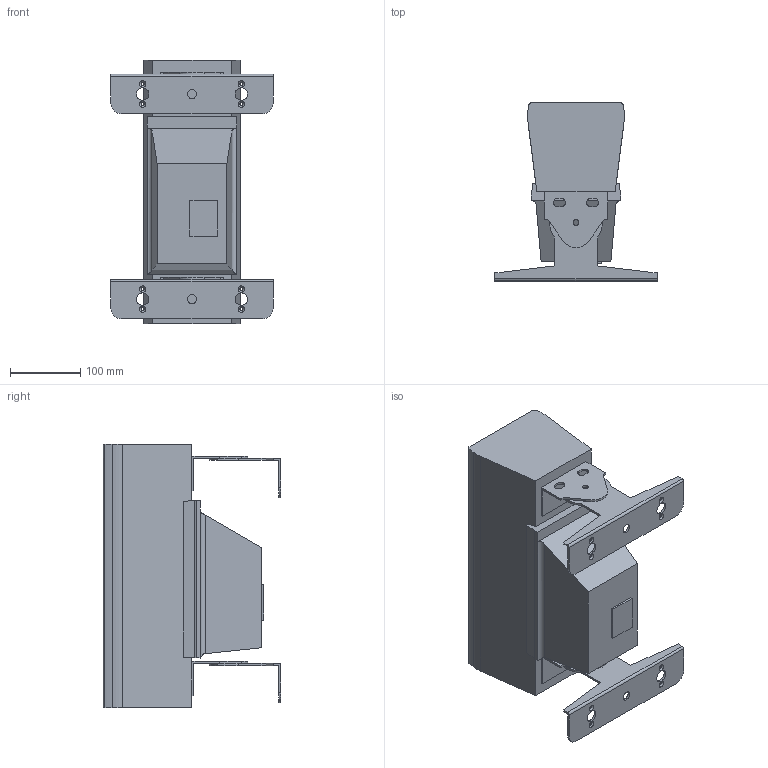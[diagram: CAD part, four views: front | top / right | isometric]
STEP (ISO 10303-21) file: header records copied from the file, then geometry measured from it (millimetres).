
FILE_DESCRIPTION(/* description */ (''),/* implementation_level */ '2;1');
FILE_NAME(/* name */ 'D:/dgooch/Documents/CADENG/PRO/Colorado Solo Batten 4/0/ColoradoSoloBatten4_0.step',/* time_stamp */ '2019-02-27T10:44:51-05:00',/* author */ ('dgooch'),/* organization */ (''),/* preprocessor_version */ 'ST-DEVELOPER v17.2',/* originating_system */ 'Autodesk Translation Framework v7.6.0.251',/* authorisation */ '');
FILE_SCHEMA (('AUTOMOTIVE_DESIGN { 1 0 10303 214 3 1 1 }'));
Length unit declared in the file: millimetre
Products named in the file (8): ColoradoSoloBatten4; Bracket; RD-SS356-040-A_1 (2); RD-SS356-036-B_3 (2); Bracket2; RD-SS356-040-A_1 (1); RD-SS356-036-B_3 (1); Main
Assembly tree (7 placements, depth 3):
  ColoradoSoloBatten4
    Bracket
      RD-SS356-040-A_1 (2)
      RD-SS356-036-B_3 (2)
    Bracket2
      RD-SS356-040-A_1 (1)
      RD-SS356-036-B_3 (1)
    Main
Bounding box: 230 x 252.34 x 373.2 mm (x, y, z)
Volume: 7927905 mm3; surface area: 383490.9 mm2
Topology: 3 solids, 3 shells, 148 faces, 424 edges, 286 vertices
Faces by surface type: plane 84, cylinder 54, cone 8, bspline 2
Full cylindrical faces by diameter (mm): 4.5 x8, 8.5 x4, 13 x2, 17.5 x4
Entity records: 5275 total; most frequent: CARTESIAN_POINT 963, DIRECTION 878, ORIENTED_EDGE 848, EDGE_CURVE 424, AXIS2_PLACEMENT_3D 297, VERTEX_POINT 286, LINE 284, VECTOR 284
